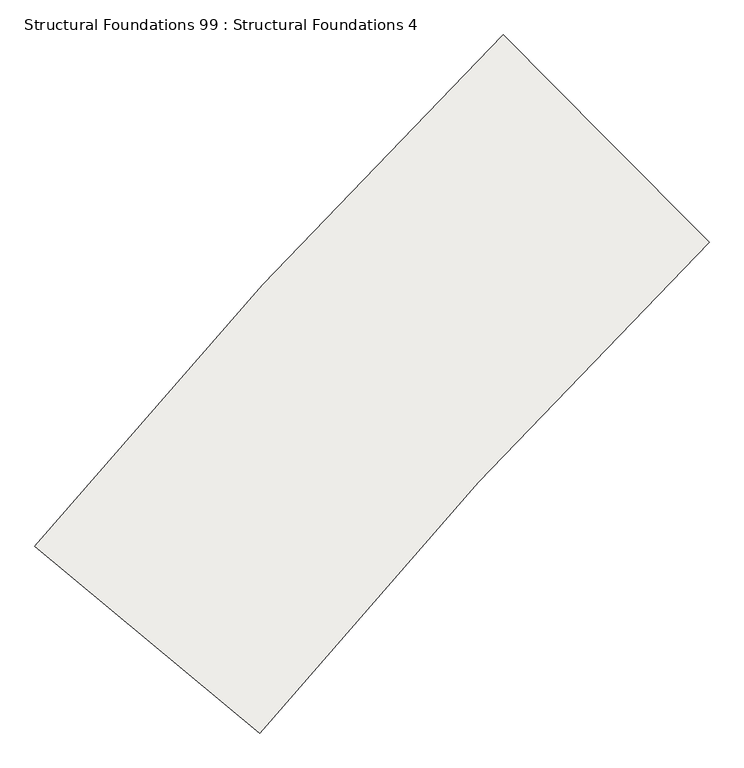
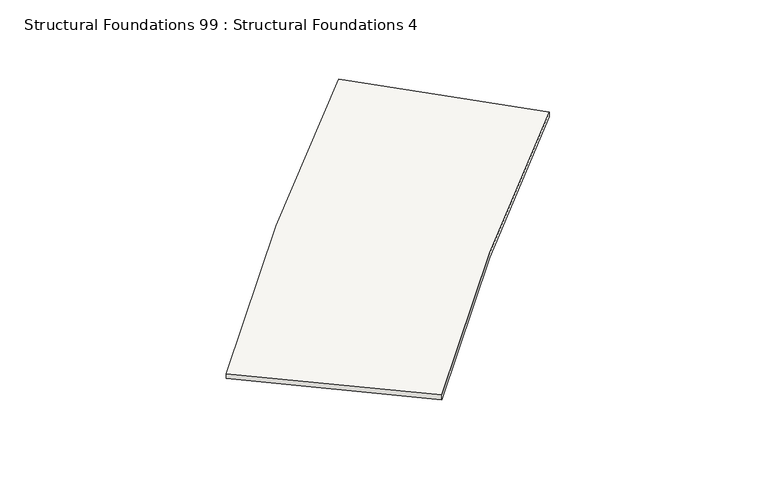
"""IFC4 building model written with IfcOpenShell, lengths in millimetres: slab geometry, Structural Foundations 99 : Structural Foundations 4."""

import ifcopenshell
import ifcopenshell.guid

model = None  # the IFC model being written
_history = None  # IfcOwnerHistory: only IFC2X3 demands one
_inside = {}  # id of a spatial element -> (the spatial element, [elements in it])
_under = {}  # id of a project, library or spatial element -> (it, [spatial elements below it])
_declared = {}  # id of a project -> (the project, [libraries it declares])
_typed = {}  # id of a type object -> (the type object, [elements of that type])
_made_of = {}  # id of a material, layer set ... -> (it, [elements and type objects made of it])


def new_model(schema):
    """Start an empty IFC model of exactly this schema.

    Asked for "IFC4X3", IfcOpenShell would pick the latest addendum, in which some entities
    have other attributes; the version numbers below select the first issue.
    IFC2X3 requires an IfcOwnerHistory on every rooted entity: one is made here for all.
    """
    global model, _history
    if schema == "IFC4X3":
        model = ifcopenshell.file(schema_version=(4, 3, 0, 0))
    else:
        model = ifcopenshell.file(schema=schema)
    _inside.clear()
    _under.clear()
    _declared.clear()
    _typed.clear()
    _made_of.clear()
    _history = None
    if model.schema == "IFC2X3":
        org = make("IfcOrganization", Name="unknown")
        user = make(
            "IfcPersonAndOrganization",
            ThePerson=make("IfcPerson", FamilyName="unknown"),
            TheOrganization=org,
        )
        app = make(
            "IfcApplication",
            ApplicationDeveloper=org,
            Version="unknown",
            ApplicationFullName="unknown",
            ApplicationIdentifier="unknown",
        )
        _history = make(
            "IfcOwnerHistory",
            OwningUser=user,
            OwningApplication=app,
            ChangeAction="ADDED",
            CreationDate=0,
        )
    return model


def make(cls, **values):
    """One entity of the class cls with the attributes given. An attribute that is None is left unset."""
    return model.create_entity(
        cls, **{name: value for name, value in values.items() if value is not None}
    )


def rooted(cls, **values):
    """An entity with a GlobalId (a new one), such as an element, a storey or a relation."""
    return make(cls, GlobalId=ifcopenshell.guid.new(), OwnerHistory=_history, **values)


def si_unit(unit_type, name, prefix=None):
    """IfcSIUnit, for example si_unit("LENGTHUNIT", "METRE", prefix="MILLI")."""
    return make("IfcSIUnit", UnitType=unit_type, Prefix=prefix, Name=name)


def assignment(units):
    """IfcUnitAssignment: the units of a project."""
    return None if units is None else make("IfcUnitAssignment", Units=units)


def point(xyz):
    """IfcCartesianPoint."""
    return None if xyz is None else make("IfcCartesianPoint", Coordinates=xyz)


def direction(xyz):
    """IfcDirection."""
    return None if xyz is None else make("IfcDirection", DirectionRatios=xyz)


def frame(location, z_axis=None, x_axis=None):
    """IfcAxis2Placement3D, a coordinate frame: its origin and axes. An axis left out is left unset."""
    return make(
        "IfcAxis2Placement3D",
        Location=point(location),
        Axis=direction(z_axis),
        RefDirection=direction(x_axis),
    )


def origin():
    """The frame at (0, 0, 0) with its axes left unset."""
    return frame((0.0, 0.0, 0.0))


def place(relative_to, where):
    """IfcLocalPlacement: puts the frame where relative to a parent placement (None: the world)."""
    return make(
        "IfcLocalPlacement", PlacementRelTo=relative_to, RelativePlacement=where
    )


def context(
    kind, dimensions, precision=None, world=None, true_north=None, identifier=None
):
    """IfcGeometricRepresentationContext, for example the 3D "Model" context."""
    return make(
        "IfcGeometricRepresentationContext",
        ContextIdentifier=identifier,
        ContextType=kind,
        CoordinateSpaceDimension=dimensions,
        Precision=precision,
        WorldCoordinateSystem=world,
        TrueNorth=true_north,
    )


def project(units=None, contexts=None):
    """IfcProject with its units and contexts."""
    return rooted(
        "IfcProject",
        Name="project",
        RepresentationContexts=contexts,
        UnitsInContext=assignment(units),
    )


def spatial(cls, under=None, at=None, **own):
    """A site, building, storey or space (cls), placed at a placement, below another one or the project."""
    s = rooted(cls, ObjectPlacement=at, **own)
    if under is not None:
        _under.setdefault(under.id(), (under, []))[1].append(s)
    return s


def shape(context_of_items, identifier, shape_type, items):
    """IfcShapeRepresentation: the items that make up one representation, for example the "Body"."""
    return make(
        "IfcShapeRepresentation",
        ContextOfItems=context_of_items,
        RepresentationIdentifier=identifier,
        RepresentationType=shape_type,
        Items=items,
    )


def source(mapping_origin, context_of_items, identifier, shape_type, items):
    """IfcRepresentationMap: a shape defined once, which mapped items show again and again."""
    return make(
        "IfcRepresentationMap",
        MappingOrigin=mapping_origin,
        MappedRepresentation=shape(context_of_items, identifier, shape_type, items),
    )


def transform(
    local_origin,
    x_axis=None,
    y_axis=None,
    z_axis=None,
    scale=None,
    scale2=None,
    scale3=None,
    uniform=True,
):
    """IfcCartesianTransformationOperator3D, or its non-uniform kind. x_axis, y_axis, z_axis: its Axis1, 2, 3."""
    if uniform:
        return make(
            "IfcCartesianTransformationOperator3D",
            Axis1=direction(x_axis),
            Axis2=direction(y_axis),
            LocalOrigin=point(local_origin),
            Scale=scale,
            Axis3=direction(z_axis),
        )
    return make(
        "IfcCartesianTransformationOperator3DnonUniform",
        Axis1=direction(x_axis),
        Axis2=direction(y_axis),
        LocalOrigin=point(local_origin),
        Scale=scale,
        Axis3=direction(z_axis),
        Scale2=scale2,
        Scale3=scale3,
    )


def mapped(mapping_source, mapping_target):
    """IfcMappedItem: shows the shape of a source again, moved by a transform."""
    return make(
        "IfcMappedItem", MappingSource=mapping_source, MappingTarget=mapping_target
    )


def made_of(thing, what):
    """Note that an element or type object is made of a material, layer set ...; save() writes the relation."""
    if what is not None:
        _made_of.setdefault(what.id(), (what, []))[1].append(thing)
    return thing


def element(
    cls,
    number,
    at=None,
    inside=None,
    cuts=None,
    type_object=None,
    material=None,
    context=None,
    identifier="Body",
    shape_type=None,
    held_by="IfcProductDefinitionShape",
    body=None,
    shapes=None,
    **own,
):
    """One element of the class cls, such as IfcWall. Its Tag is "e" and its number.

    at: its placement. inside: the storey or other place that contains it. cuts: it is an
    opening in that element (IfcRelVoidsElement). A single representation is given by context,
    identifier, shape_type and body (its items); several are given by shapes. held_by: the class
    of the entity that holds the representations. save() writes the other relations.
    """
    e = rooted(cls, Tag="e%d" % number, ObjectPlacement=at, **own)
    if body is not None:
        shapes = [shape(context, identifier, shape_type, body)]
    if shapes is not None:
        e.Representation = make(held_by, Representations=shapes)
    if inside is not None:
        _inside.setdefault(inside.id(), (inside, []))[1].append(e)
    if cuts is not None:
        rooted(
            "IfcRelVoidsElement", RelatingBuildingElement=cuts, RelatedOpeningElement=e
        )
    if type_object is not None:
        _typed.setdefault(type_object.id(), (type_object, []))[1].append(e)
    return made_of(e, material)


def aggregate(whole, parts):
    """IfcRelAggregates: a whole, such as a stair, and the parts it consists of."""
    return rooted("IfcRelAggregates", RelatingObject=whole, RelatedObjects=parts)


def save(model, path):
    """Write the relations noted so far, then the file.

    IfcRelAggregates (storeys below a building ...), IfcRelContainedInSpatialStructure (elements
    in a storey), IfcRelDefinesByType, IfcRelAssociatesMaterial and IfcRelDeclares: one each for
    every whole, place, type object, material and project.
    """
    for whole, parts in _under.values():
        aggregate(whole, parts)
    for where, things in _inside.values():
        rooted(
            "IfcRelContainedInSpatialStructure",
            RelatedElements=things,
            RelatingStructure=where,
        )
    for kind, things in _typed.values():
        rooted("IfcRelDefinesByType", RelatedObjects=things, RelatingType=kind)
    for what, things in _made_of.values():
        rooted("IfcRelAssociatesMaterial", RelatedObjects=things, RelatingMaterial=what)
    for by, libraries in _declared.values():
        rooted("IfcRelDeclares", RelatingContext=by, RelatedDefinitions=libraries)
    model.write(path)


def plane_surface(at):
    """IfcPlane: the flat surface through the origin of the frame at, square to its z axis."""
    return make("IfcPlane", Position=at)


def spline_curve(degree, points, multiplicities, knots, weights=None):
    """IfcBSplineCurveWithKnots; with weights, IfcRationalBSplineCurveWithKnots."""
    own = dict(
        Degree=degree,
        ControlPointsList=[point(p) for p in points],
        CurveForm="UNSPECIFIED",
        ClosedCurve=False,
        SelfIntersect=False,
        KnotMultiplicities=multiplicities,
        Knots=knots,
        KnotSpec="UNSPECIFIED",
    )
    if weights is None:
        return make("IfcBSplineCurveWithKnots", **own)
    return make("IfcRationalBSplineCurveWithKnots", WeightsData=weights, **own)


def spline_surface(u_degree, v_degree, points, u_multiplicities, v_multiplicities, u_knots, v_knots, weights=None):
    """IfcBSplineSurfaceWithKnots; with weights, IfcRationalBSplineSurfaceWithKnots. points: one row for each step in u."""
    own = dict(
        UDegree=u_degree,
        VDegree=v_degree,
        ControlPointsList=[[point(p) for p in row] for row in points],
        SurfaceForm="UNSPECIFIED",
        UClosed=False,
        VClosed=False,
        SelfIntersect=False,
        UMultiplicities=u_multiplicities,
        VMultiplicities=v_multiplicities,
        UKnots=u_knots,
        VKnots=v_knots,
        KnotSpec="UNSPECIFIED",
    )
    if weights is None:
        return make("IfcBSplineSurfaceWithKnots", **own)
    return make("IfcRationalBSplineSurfaceWithKnots", WeightsData=weights, **own)


def advanced_brep(points, edges, surfaces, faces):
    """IfcAdvancedBrep: a solid bounded by faces that lie on surfaces and meet in shared edges.

    An edge is (start, end): straight between two places in points (the first is 0);
    or (start, end, curve); or (start, end, curve, False) where it runs against its curve.
    A face is (place in surfaces, loops), or (place, loops, False) where it looks against
    its surface's normal. A loop lists edges by number (the first is 1), with a minus sign
    where the edge is run from its end to its start. The first loop is the outer one.
    """
    corners = [point(p) for p in points]
    vertices = [make("IfcVertexPoint", VertexGeometry=c) for c in corners]
    made = []
    for start, end, *more in edges:
        made.append(
            make(
                "IfcEdgeCurve",
                EdgeStart=vertices[start],
                EdgeEnd=vertices[end],
                EdgeGeometry=more[0] if more else make("IfcPolyline", Points=[corners[start], corners[end]]),
                SameSense=more[1] if len(more) > 1 else True,
            )
        )
    hull = []
    for where, loops, *sense in faces:
        bounds = []
        for j, loop in enumerate(loops):
            ring = [make("IfcOrientedEdge", EdgeElement=made[abs(k) - 1], Orientation=k > 0) for k in loop]
            bounds.append(
                make(
                    "IfcFaceOuterBound" if j == 0 else "IfcFaceBound",
                    Bound=make("IfcEdgeLoop", EdgeList=ring),
                    Orientation=True,
                )
            )
        hull.append(make("IfcAdvancedFace", Bounds=bounds, FaceSurface=surfaces[where], SameSense=sense[0] if sense else True))
    return make("IfcAdvancedBrep", Outer=make("IfcClosedShell", CfsFaces=hull))


def structural_foundations_99_structural_foundations_4_d7bc2237(model_context):
    return source(origin(), model_context, "Body", "AdvancedBrep", [
        advanced_brep(
        [(-333179.0040843, -477529.0211926, 633640.0), (-330574.3197201, -480156.8757097, 633640.0), (-330574.3197201, -480156.8757097, 633540.0), (-333179.0040843, -477529.0211926, 633540.0), (-339111.3422174, -484006.5691262, 633550.0), (-339111.3422174, -484006.5691262, 633450.0), (-336265.1875442, -486370.7610762, 633450.0), (-336265.1875442, -486370.7610762, 633550.0)],
        [
            (0, 1),
            (1, 2),
            (2, 3),
            (3, 0),
            (4, 5),
            (5, 6),
            (6, 7),
            (7, 4),
            (7, 1, spline_curve(3, [(-336265.1875442, -486370.7610762, 633550.0), (-335367.504570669, -485290.077001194, 633564.99999983), (-334443.700020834, -484231.091205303, 633580.00000017), (-332546.005380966, -482158.989494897, 633609.99999983), (-331572.115291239, -481145.873580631, 633625.00000017), (-330574.3197201, -480156.8757097, 633640.0)], [4, 2, 4], [0.0, 14.120361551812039, 28.240723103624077])),
            (0, 4, spline_curve(3, [(-333179.0040843, -477529.0211926, 633640.0), (-334219.137311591, -478559.983422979, 633625.00000017), (-335234.35071943, -479616.087053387, 633609.99999983), (-337212.56680577, -481776.110511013, 633580.00000017), (-338175.569484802, -482880.030337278, 633564.99999983), (-339111.3422174, -484006.5691262, 633550.0)], [4, 2, 4], [0.0, 14.120361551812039, 28.240723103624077])),
            (6, 2, spline_curve(3, [(-336265.1875442, -486370.7610762, 633450.0), (-335367.504570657, -485290.077001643, 633464.999999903), (-334443.700020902, -484231.091205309, 633480.000000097), (-332546.005380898, -482158.989494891, 633509.999999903), (-331572.11529139, -481145.873580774, 633525.000000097), (-330574.3197201, -480156.8757097, 633540.0)], [4, 2, 4], [0.0, 13.827045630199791, 27.654091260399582])),
            (5, 3, spline_curve(3, [(-339111.3422174, -484006.5691262, 633450.0), (-338175.569484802, -482880.030337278, 633464.99999983), (-337212.56680577, -481776.110511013, 633480.00000017), (-335234.35071943, -479616.087053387, 633509.99999983), (-334219.137311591, -478559.983422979, 633525.00000017), (-333179.0040843, -477529.0211926, 633540.0)], [4, 2, 4], [0.0, 14.120361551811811, 28.240723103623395])),
        ],
        [
            plane_surface(frame((-331876.6619022, -478842.9484511, 633590.0), z_axis=(0.7102309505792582, 0.7039687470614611, 0.0), x_axis=(0.7039687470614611, -0.7102309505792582, 0.0))),
            plane_surface(frame((-337688.2648808, -485188.6651012, 633500.0), z_axis=(-0.6389707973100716, -0.7692309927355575, 0.0), x_axis=(0.7692309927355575, -0.6389707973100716, 0.0))),
            spline_surface(3, 3, [[(-339111.3422174, -484006.5691262, 633550.0), (-338175.569484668, -482880.030337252, 633565.0), (-337212.566805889, -481776.110510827, 633580.0), (-335234.350719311, -479616.087053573, 633610.0), (-334219.137311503, -478559.983422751, 633625.0), (-333179.0040843, -477529.0211926, 633640.0)], [(-338636.983105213, -484400.601117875, 633550.0), (-337707.558665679, -483281.704781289, 633565.0), (-336751.089008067, -482185.273959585, 633580.0), (-334786.293163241, -480039.904127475, 633610.0), (-333777.966974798, -478990.965115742, 633625.0), (-332744.890023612, -477966.996945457, 633640.0)], [(-338162.623992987, -484794.633109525, 633550.0), (-337239.547846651, -483683.379225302, 633565.0), (-336289.611211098, -482594.437409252, 633580.0), (-334338.235606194, -480463.721200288, 633610.0), (-333336.796638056, -479421.946808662, 633625.0), (-332310.775962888, -478404.972698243, 633640.0)], [(-337213.905768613, -485582.697092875, 633550.0), (-336303.526208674, -484486.728113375, 633565.0), (-335366.655615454, -483412.764306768, 633580.0), (-333442.120494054, -481311.355348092, 633610.0), (-332454.455964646, -480283.910194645, 633625.0), (-331442.547841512, -479280.924203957, 633640.0)], [(-336739.546656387, -485976.729084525, 633550.0), (-335835.515389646, -484888.402557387, 633565.0), (-334905.177818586, -483821.927756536, 633580.0), (-332994.062937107, -481735.172421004, 633610.0), (-332013.285627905, -480714.891887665, 633625.0), (-331008.433780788, -479718.899956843, 633640.0)], [(-336265.1875442, -486370.7610762, 633550.0), (-335367.504570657, -485290.077001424, 633565.0), (-334443.700020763, -484231.091205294, 633580.0), (-332546.005381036, -482158.989494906, 633610.0), (-331572.1152912, -481145.873580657, 633625.0), (-330574.3197201, -480156.8757097, 633640.0)]], [4, 2, 4], [4, 2, 4], [0.0, 6.069553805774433, 12.139107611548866], [0.0, 14.120361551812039, 28.240723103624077]),
            spline_surface(3, 3, [[(-336265.1875442, -486370.7610762, 633550.0), (-335367.504570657, -485290.077001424, 633565.0), (-334443.700020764, -484231.091205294, 633580.0), (-332546.005381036, -482158.989494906, 633610.0), (-331572.1152912, -481145.873580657, 633625.0), (-330574.3197201, -480156.8757097, 633640.0)], [(-336265.1875442, -486370.7610762, 633533.333333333), (-335367.504570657, -485290.077001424, 633548.333333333), (-334443.700020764, -484231.091205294, 633563.333333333), (-332546.005381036, -482158.989494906, 633593.333333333), (-331572.1152912, -481145.873580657, 633608.333333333), (-330574.3197201, -480156.8757097, 633623.333333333)], [(-336265.1875442, -486370.7610762, 633516.666666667), (-335367.504570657, -485290.077001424, 633531.666666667), (-334443.700020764, -484231.091205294, 633546.666666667), (-332546.005381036, -482158.989494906, 633576.666666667), (-331572.1152912, -481145.873580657, 633591.666666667), (-330574.3197201, -480156.8757097, 633606.666666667)], [(-336265.1875442, -486370.7610762, 633483.333333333), (-335367.504570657, -485290.077001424, 633498.333333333), (-334443.700020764, -484231.091205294, 633513.333333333), (-332546.005381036, -482158.989494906, 633543.333333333), (-331572.1152912, -481145.873580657, 633558.333333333), (-330574.3197201, -480156.8757097, 633573.333333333)], [(-336265.1875442, -486370.7610762, 633466.666666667), (-335367.504570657, -485290.077001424, 633481.666666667), (-334443.700020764, -484231.091205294, 633496.666666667), (-332546.005381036, -482158.989494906, 633526.666666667), (-331572.1152912, -481145.873580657, 633541.666666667), (-330574.3197201, -480156.8757097, 633556.666666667)], [(-336265.1875442, -486370.7610762, 633450.0), (-335367.504570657, -485290.077001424, 633465.0), (-334443.700020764, -484231.091205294, 633480.0), (-332546.005381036, -482158.989494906, 633510.0), (-331572.1152912, -481145.873580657, 633525.0), (-330574.3197201, -480156.8757097, 633540.0)]], [4, 2, 4], [4, 2, 4], [0.0, 0.16404199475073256, 0.3280839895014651], [0.0, 13.827045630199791, 27.654091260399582]),
            spline_surface(3, 3, [[(-336265.1875442, -486370.7610762, 633450.0), (-335367.504570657, -485290.077001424, 633465.0), (-334443.700020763, -484231.091205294, 633480.0), (-332546.005381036, -482158.989494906, 633510.0), (-331572.1152912, -481145.873580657, 633525.0), (-330574.3197201, -480156.8757097, 633540.0)], [(-336739.546656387, -485976.729084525, 633450.0), (-335835.515389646, -484888.402557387, 633465.0), (-334905.177818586, -483821.927756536, 633480.0), (-332994.062937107, -481735.172421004, 633510.0), (-332013.285627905, -480714.891887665, 633525.0), (-331008.433780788, -479718.899956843, 633540.0)], [(-337213.905768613, -485582.697092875, 633450.0), (-336303.526208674, -484486.728113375, 633465.0), (-335366.655615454, -483412.764306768, 633480.0), (-333442.120494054, -481311.355348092, 633510.0), (-332454.455964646, -480283.910194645, 633525.0), (-331442.547841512, -479280.924203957, 633540.0)], [(-338162.623992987, -484794.633109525, 633450.0), (-337239.547846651, -483683.379225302, 633465.0), (-336289.611211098, -482594.437409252, 633480.0), (-334338.235606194, -480463.721200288, 633510.0), (-333336.796638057, -479421.946808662, 633525.0), (-332310.775962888, -478404.972698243, 633540.0)], [(-338636.983105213, -484400.601117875, 633450.0), (-337707.558665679, -483281.704781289, 633465.0), (-336751.089008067, -482185.273959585, 633480.0), (-334786.293163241, -480039.904127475, 633510.0), (-333777.966974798, -478990.965115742, 633525.0), (-332744.890023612, -477966.996945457, 633540.0)], [(-339111.3422174, -484006.5691262, 633450.0), (-338175.569484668, -482880.030337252, 633465.0), (-337212.566805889, -481776.110510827, 633480.0), (-335234.350719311, -479616.087053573, 633510.0), (-334219.137311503, -478559.983422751, 633525.0), (-333179.0040843, -477529.0211926, 633540.0)]], [4, 2, 4], [4, 2, 4], [0.0, 6.069553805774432, 12.139107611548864], [0.0, 14.120361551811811, 28.240723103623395]),
            spline_surface(3, 3, [[(-339111.3422174, -484006.5691262, 633450.0), (-338175.569484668, -482880.030337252, 633465.0), (-337212.566805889, -481776.110510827, 633480.0), (-335234.350719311, -479616.087053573, 633510.0), (-334219.137311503, -478559.983422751, 633525.0), (-333179.0040843, -477529.0211926, 633540.0)], [(-339111.3422174, -484006.5691262, 633466.666666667), (-338175.569484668, -482880.030337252, 633481.666666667), (-337212.566805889, -481776.110510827, 633496.666666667), (-335234.350719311, -479616.087053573, 633526.666666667), (-334219.137311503, -478559.983422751, 633541.666666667), (-333179.0040843, -477529.0211926, 633556.666666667)], [(-339111.3422174, -484006.5691262, 633483.333333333), (-338175.569484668, -482880.030337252, 633498.333333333), (-337212.566805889, -481776.110510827, 633513.333333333), (-335234.350719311, -479616.087053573, 633543.333333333), (-334219.137311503, -478559.983422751, 633558.333333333), (-333179.0040843, -477529.0211926, 633573.333333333)], [(-339111.3422174, -484006.5691262, 633516.666666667), (-338175.569484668, -482880.030337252, 633531.666666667), (-337212.566805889, -481776.110510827, 633546.666666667), (-335234.350719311, -479616.087053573, 633576.666666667), (-334219.137311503, -478559.983422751, 633591.666666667), (-333179.0040843, -477529.0211926, 633606.666666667)], [(-339111.3422174, -484006.5691262, 633533.333333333), (-338175.569484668, -482880.030337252, 633548.333333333), (-337212.566805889, -481776.110510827, 633563.333333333), (-335234.350719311, -479616.087053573, 633593.333333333), (-334219.137311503, -478559.983422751, 633608.333333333), (-333179.0040843, -477529.0211926, 633623.333333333)], [(-339111.3422174, -484006.5691262, 633550.0), (-338175.569484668, -482880.030337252, 633565.0), (-337212.566805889, -481776.110510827, 633580.0), (-335234.350719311, -479616.087053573, 633610.0), (-334219.137311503, -478559.983422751, 633625.0), (-333179.0040843, -477529.0211926, 633640.0)]], [4, 2, 4], [4, 2, 4], [0.0, 0.16404199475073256, 0.3280839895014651], [0.0, 14.413678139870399, 28.82735627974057]),
        ],
        [
            (0, [[1, 2, 3, 4]]),
            (1, [[5, 6, 7, 8]]),
            (2, [[-8, 9, -1, 10]]),
            (3, [[-7, 11, -2, -9]]),
            (4, [[-6, 12, -3, -11]]),
            (5, [[-5, -10, -4, -12]]),
        ],
    ),
    ])


if __name__ == "__main__":
    model = new_model("IFC4")
    model_context = context("Model", 3, world=origin())
    ifc_project = project(units=[si_unit("LENGTHUNIT", "METRE", prefix="MILLI")], contexts=[model_context])
    site = spatial("IfcSite", under=ifc_project)
    building = spatial("IfcBuilding", under=site)
    placement = place(None, origin())
    structural_foundations_99_structural_foundations_4_shape = structural_foundations_99_structural_foundations_4_d7bc2237(model_context)
    element("IfcSlab", 1, ObjectType="Structural Foundations 99 : Structural Foundations 4", at=placement, inside=building, context=model_context, shape_type="MappedRepresentation", body=[
        mapped(structural_foundations_99_structural_foundations_4_shape, transform((0.0, 0.0, 0.0), x_axis=(1.0, 0.0, 0.0), y_axis=(0.0, 1.0, 0.0), z_axis=(0.0, 0.0, 1.0))),
    ])
    save(model, "model.ifc")
